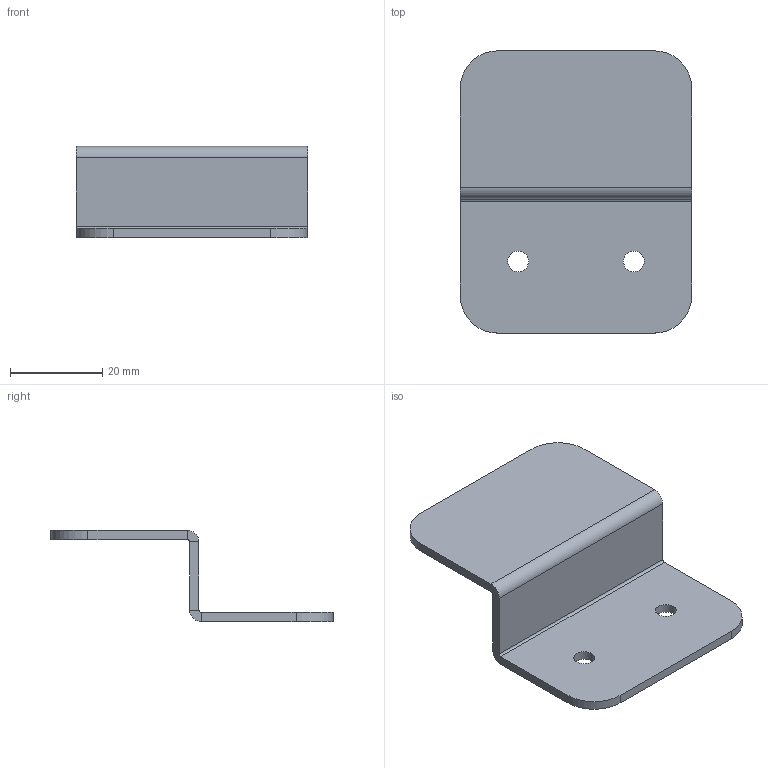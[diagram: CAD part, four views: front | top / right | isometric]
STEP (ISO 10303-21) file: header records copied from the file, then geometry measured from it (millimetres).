
FILE_DESCRIPTION (( 'STEP AP214' ), '1' );
FILE_NAME ('MONO_038-p301.STEP', '2025-09-23T04:53:02', ( '' ), ( '' ), 'SwSTEP 2.0', 'SolidWorks 2024', '' );
FILE_SCHEMA (( 'AUTOMOTIVE_DESIGN' ));
Length unit declared in the file: millimetre
Products named in the file (1): MONO_038-p301
Bounding box: 50 x 61 x 19.75 mm (x, y, z)
Volume: 7572.7 mm3; surface area: 8111.7 mm2
Topology: 1 solids, 1 shells, 28 faces, 62 edges, 36 vertices
Faces by surface type: plane 18, cylinder 10
Full cylindrical faces by diameter (mm): 4.5 x2
Entity records: 779 total; most frequent: DIRECTION 138, CARTESIAN_POINT 125, ORIENTED_EDGE 120, EDGE_CURVE 60, AXIS2_PLACEMENT_3D 49, VECTOR 40, LINE 40, VERTEX_POINT 36
